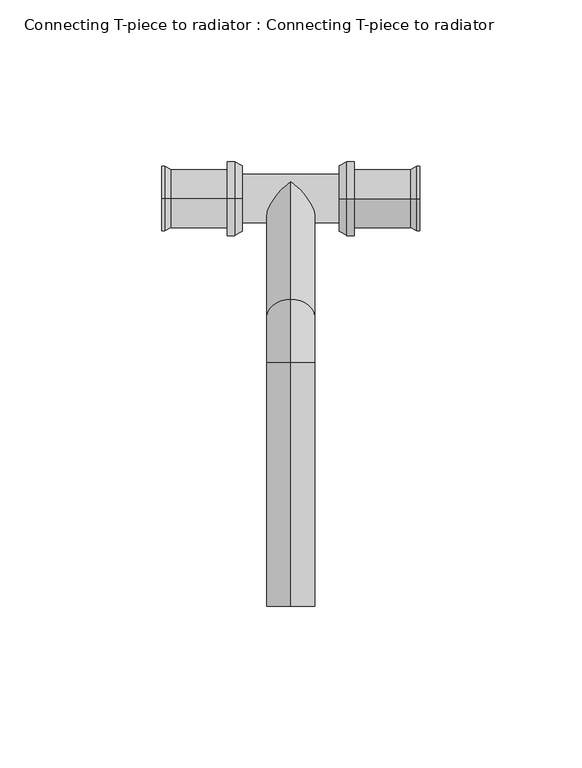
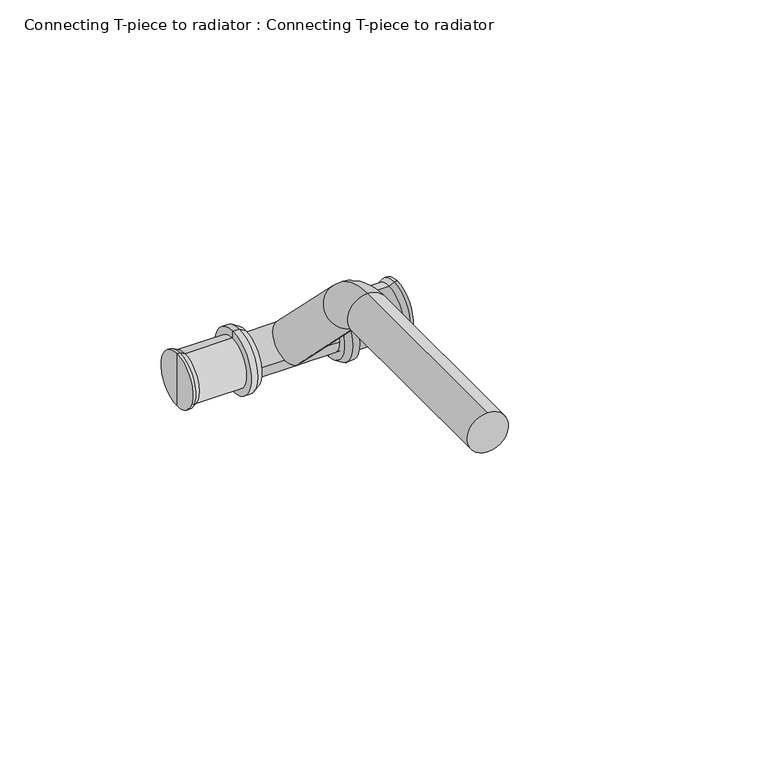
"""IFC4 building model written with IfcOpenShell, lengths in millimetres: pipe fitting geometry, Connecting T-piece to radiator : Connecting T-piece to radiator."""

from ifc_helpers import new_model, si_unit, point, frame, origin, place, context, project, spatial, polyline, circle_curve, ellipse_curve, trimmed, source, transform, mapped, element, save
from ifc_brep_helpers import plane_surface, cylinder_surface, revolved_surface, advanced_brep


def connecting_t_piece_to_radiator_connecting_t_piece_to_64f19e2a(model_context):
    return source(origin(), model_context, "Body", "AdvancedBrep", [
        advanced_brep(
        [(15.0, 0.0, 0.0), (15.0, 0.0, 10.1432269), (15.0, 0.0, -10.1432269), (19.7, 0.0, -11.5), (19.7, 0.0, 11.5), (19.7, 0.0, 0.0), (17.35, 0.0, -11.5), (17.35, 0.0, 11.5)],
        [
            (0, 1),
            (1, 2, circle_curve(frame((15.0, 0.0, 0.0), z_axis=(-1.0, 0.0, 0.0), x_axis=(0.0, 0.0, 1.0)), 10.1432269)),
            (2, 0),
            (2, 1, circle_curve(frame((15.0, 0.0, 0.0), z_axis=(-1.0, 0.0, 0.0), x_axis=(0.0, 0.0, 1.0)), 10.1432269)),
            (3, 4, circle_curve(frame((19.7, 0.0, 0.0), z_axis=(1.0, 0.0, 0.0), x_axis=(0.0, 0.0, 1.0)), 11.5)),
            (4, 5),
            (5, 3),
            (4, 3, circle_curve(frame((19.7, 0.0, 0.0), z_axis=(1.0, 0.0, 0.0), x_axis=(0.0, 0.0, 1.0)), 11.5)),
            (6, 7, circle_curve(frame((17.35, 0.0, 0.0), z_axis=(1.0, 0.0, 0.0), x_axis=(0.0, 0.0, 1.0)), 11.5)),
            (7, 4),
            (3, 6),
            (7, 6, circle_curve(frame((17.35, 0.0, 0.0), z_axis=(1.0, 0.0, 0.0), x_axis=(0.0, 0.0, 1.0)), 11.5)),
            (1, 7),
            (6, 2),
        ],
        [
            plane_surface(frame((15.0, 0.0, 0.0), z_axis=(-1.0, 0.0, 0.0), x_axis=(0.0, 0.0, 1.0))),
            plane_surface(frame((19.7, 0.0, 0.0), z_axis=(1.0, 0.0, 0.0), x_axis=(0.0, 0.0, 1.0))),
            cylinder_surface(frame((16.0, 0.0, 0.0), z_axis=(-1.0, 0.0, 0.0), x_axis=(0.0, 0.0, 1.0)), 11.5),
            revolved_surface(polyline([(17.35, 0.0, 11.5), (15.0, 0.0, 10.1432269)]), (16.0, 0.0, 0.0), (-1.0, 0.0, 0.0)),
        ],
        [
            (0, [[1, 2, 3]]),
            (0, [[-3, 4, -1]]),
            (1, [[5, 6, 7]]),
            (1, [[8, -7, -6]]),
            (2, [[9, 10, -5, 11]]),
            (2, [[12, -11, -8, -10]]),
            (3, [[-2, 13, -9, 14]]),
            (3, [[-4, -14, -12, -13]]),
        ],
    ),
        advanced_brep(
        [(19.7, 0.0, -9.0), (19.7, 0.0, 9.0), (37.0, 0.0, 9.0), (37.0, 0.0, -9.0), (40.0, 0.0, -10.0), (40.0, 0.0, 10.0), (40.0, 0.0, 0.0), (19.7, 0.0, 0.0), (39.0, 0.0, -10.0), (39.0, 0.0, 10.0)],
        [
            (0, 1, circle_curve(frame((19.7, 0.0, 0.0), z_axis=(1.0, 0.0, 0.0), x_axis=(0.0, 0.0, 1.0)), 9.0)),
            (1, 2),
            (2, 3, circle_curve(frame((37.0, 0.0, 0.0), z_axis=(-1.0, 0.0, 0.0), x_axis=(0.0, 0.0, 1.0)), 9.0)),
            (3, 0),
            (1, 0, circle_curve(frame((19.7, 0.0, 0.0), z_axis=(1.0, 0.0, 0.0), x_axis=(0.0, 0.0, 1.0)), 9.0)),
            (3, 2, circle_curve(frame((37.0, 0.0, 0.0), z_axis=(-1.0, 0.0, 0.0), x_axis=(0.0, 0.0, 1.0)), 9.0)),
            (4, 5, circle_curve(frame((40.0, 0.0, 0.0), z_axis=(1.0, 0.0, 0.0), x_axis=(0.0, 0.0, 1.0)), 10.0)),
            (5, 6),
            (6, 4),
            (5, 4, circle_curve(frame((40.0, 0.0, 0.0), z_axis=(1.0, 0.0, 0.0), x_axis=(0.0, 0.0, 1.0)), 10.0)),
            (7, 1),
            (0, 7),
            (8, 9, circle_curve(frame((39.0, 0.0, 0.0), z_axis=(1.0, 0.0, 0.0), x_axis=(0.0, 0.0, 1.0)), 10.0)),
            (9, 5),
            (4, 8),
            (9, 8, circle_curve(frame((39.0, 0.0, 0.0), z_axis=(1.0, 0.0, 0.0), x_axis=(0.0, 0.0, 1.0)), 10.0)),
            (2, 9),
            (8, 3),
        ],
        [
            cylinder_surface(frame((-1895.8038476, 0.0, 0.0), z_axis=(-1.0, 0.0, 0.0), x_axis=(0.0, 0.0, 1.0)), 9.0),
            plane_surface(frame((40.0, 0.0, 0.0), z_axis=(1.0, 0.0, 0.0), x_axis=(0.0, 0.0, 1.0))),
            plane_surface(frame((19.7, 0.0, 0.0), z_axis=(-1.0, 0.0, 0.0), x_axis=(0.0, 0.0, 1.0))),
            cylinder_surface(frame((-1895.8038476, 0.0, 0.0), z_axis=(-1.0, 0.0, 0.0), x_axis=(0.0, 0.0, 1.0)), 10.0),
            revolved_surface(polyline([(39.0, 0.0, 10.0), (37.0, 0.0, 9.0)]), (-1895.8038476, 0.0, 0.0), (-1.0, 0.0, 0.0)),
        ],
        [
            (0, [[1, 2, 3, 4]]),
            (0, [[5, -4, 6, -2]]),
            (1, [[7, 8, 9]]),
            (1, [[10, -9, -8]]),
            (2, [[11, -1, 12]]),
            (2, [[-12, -5, -11]]),
            (3, [[13, 14, -7, 15]]),
            (3, [[16, -15, -10, -14]]),
            (4, [[-3, 17, -13, 18]]),
            (4, [[-6, -18, -16, -17]]),
        ],
    ),
        advanced_brep(
        [(-15.0, 0.0, 0.0), (-15.0, 0.0, 10.1432269), (-15.0, 0.0, -10.1432269), (-19.7, 0.0, -11.5), (-19.7, 0.0, 11.5), (-19.7, 0.0, 0.0), (-17.35, 0.0, -11.5), (-17.35, 0.0, 11.5)],
        [
            (0, 1),
            (1, 2, circle_curve(frame((-15.0, 0.0, 0.0), z_axis=(1.0, 0.0, 0.0), x_axis=(0.0, 0.0, 1.0)), 10.1432269)),
            (2, 0),
            (2, 1, circle_curve(frame((-15.0, 0.0, 0.0), z_axis=(1.0, 0.0, 0.0), x_axis=(0.0, 0.0, 1.0)), 10.1432269)),
            (3, 4, circle_curve(frame((-19.7, 0.0, 0.0), z_axis=(-1.0, 0.0, 0.0), x_axis=(0.0, 0.0, 1.0)), 11.5)),
            (4, 5),
            (5, 3),
            (4, 3, circle_curve(frame((-19.7, 0.0, 0.0), z_axis=(-1.0, 0.0, 0.0), x_axis=(0.0, 0.0, 1.0)), 11.5)),
            (6, 7, circle_curve(frame((-17.35, 0.0, 0.0), z_axis=(-1.0, 0.0, 0.0), x_axis=(0.0, 0.0, 1.0)), 11.5)),
            (7, 4),
            (3, 6),
            (7, 6, circle_curve(frame((-17.35, 0.0, 0.0), z_axis=(-1.0, 0.0, 0.0), x_axis=(0.0, 0.0, 1.0)), 11.5)),
            (1, 7),
            (6, 2),
        ],
        [
            plane_surface(frame((-15.0, 0.0, 0.0), z_axis=(1.0, 0.0, 0.0), x_axis=(0.0, 0.0, 1.0))),
            plane_surface(frame((-19.7, 0.0, 0.0), z_axis=(-1.0, 0.0, 0.0), x_axis=(0.0, 0.0, 1.0))),
            cylinder_surface(frame((-16.0, 0.0, 0.0), z_axis=(1.0, 0.0, 0.0), x_axis=(0.0, 0.0, 1.0)), 11.5),
            revolved_surface(polyline([(-17.35, 0.0, 11.5), (-15.0, 0.0, 10.1432269)]), (-16.0, 0.0, 0.0), (1.0, 0.0, 0.0)),
        ],
        [
            (0, [[1, 2, 3]]),
            (0, [[-3, 4, -1]]),
            (1, [[5, 6, 7]]),
            (1, [[8, -7, -6]]),
            (2, [[9, 10, -5, 11]]),
            (2, [[12, -11, -8, -10]]),
            (3, [[-2, 13, -9, 14]]),
            (3, [[-4, -14, -12, -13]]),
        ],
    ),
        advanced_brep(
        [(-19.7, 0.0, -9.0), (-19.7, 0.0, 9.0), (-37.0, 0.0, 9.0), (-37.0, 0.0, -9.0), (-40.0, 0.0, -10.0), (-40.0, 0.0, 10.0), (-40.0, 0.0, 0.0), (-19.7, 0.0, 0.0), (-39.0, 0.0, -10.0), (-39.0, 0.0, 10.0)],
        [
            (0, 1, circle_curve(frame((-19.7, 0.0, 0.0), z_axis=(-1.0, 0.0, 0.0), x_axis=(0.0, 0.0, 1.0)), 9.0)),
            (1, 2),
            (2, 3, circle_curve(frame((-37.0, 0.0, 0.0), z_axis=(1.0, 0.0, 0.0), x_axis=(0.0, 0.0, 1.0)), 9.0)),
            (3, 0),
            (1, 0, circle_curve(frame((-19.7, 0.0, 0.0), z_axis=(-1.0, 0.0, 0.0), x_axis=(0.0, 0.0, 1.0)), 9.0)),
            (3, 2, circle_curve(frame((-37.0, 0.0, 0.0), z_axis=(1.0, 0.0, 0.0), x_axis=(0.0, 0.0, 1.0)), 9.0)),
            (4, 5, circle_curve(frame((-40.0, 0.0, 0.0), z_axis=(-1.0, 0.0, 0.0), x_axis=(0.0, 0.0, 1.0)), 10.0)),
            (5, 6),
            (6, 4),
            (5, 4, circle_curve(frame((-40.0, 0.0, 0.0), z_axis=(-1.0, 0.0, 0.0), x_axis=(0.0, 0.0, 1.0)), 10.0)),
            (7, 1),
            (0, 7),
            (8, 9, circle_curve(frame((-39.0, 0.0, 0.0), z_axis=(-1.0, 0.0, 0.0), x_axis=(0.0, 0.0, 1.0)), 10.0)),
            (9, 5),
            (4, 8),
            (9, 8, circle_curve(frame((-39.0, 0.0, 0.0), z_axis=(-1.0, 0.0, 0.0), x_axis=(0.0, 0.0, 1.0)), 10.0)),
            (2, 9),
            (8, 3),
        ],
        [
            cylinder_surface(frame((1895.8038476, 0.0, 0.0), z_axis=(1.0, 0.0, 0.0), x_axis=(0.0, 0.0, 1.0)), 9.0),
            plane_surface(frame((-40.0, 0.0, 0.0), z_axis=(-1.0, 0.0, 0.0), x_axis=(0.0, 0.0, 1.0))),
            plane_surface(frame((-19.7, 0.0, 0.0), z_axis=(1.0, 0.0, 0.0), x_axis=(0.0, 0.0, 1.0))),
            cylinder_surface(frame((1895.8038476, 0.0, 0.0), z_axis=(1.0, 0.0, 0.0), x_axis=(0.0, 0.0, 1.0)), 10.0),
            revolved_surface(polyline([(-39.0, 0.0, 10.0), (-37.0, 0.0, 9.0)]), (1895.8038476, 0.0, 0.0), (1.0, 0.0, 0.0)),
        ],
        [
            (0, [[1, 2, 3, 4]]),
            (0, [[5, -4, 6, -2]]),
            (1, [[7, 8, 9]]),
            (1, [[10, -9, -8]]),
            (2, [[11, -1, 12]]),
            (2, [[-12, -5, -11]]),
            (3, [[13, 14, -7, 15]]),
            (3, [[16, -15, -10, -14]]),
            (4, [[-3, 17, -13, 18]]),
            (4, [[-6, -18, -16, -17]]),
        ],
    ),
        advanced_brep(
        [(16.0, 7.5, 0.0), (16.0, -7.5, 0.0), (-16.0, 7.5, 0.0), (-16.0, -7.5, 0.0), (-5.3033009, -7.5, 0.0), (0.0, 5.3033009, 5.3033009), (5.3033009, -7.5, 0.0), (0.0, -5.3033009, -5.3033009), (0.0, -31.2652416, 41.8718434), (0.0, -41.8718434, 31.2652416), (0.0, -50.7106781, 49.9264069), (0.0, -50.7106781, 34.9264069), (0.0, -126.2722899, 49.9264069), (0.0, -126.2722899, 34.9264069)],
        [
            (0, 1, circle_curve(frame((16.0, 0.0, 0.0), z_axis=(1.0, 0.0, 0.0), x_axis=(0.0, -1.0, 0.0)), 7.5)),
            (1, 0, circle_curve(frame((16.0, 0.0, 0.0), z_axis=(1.0, 0.0, 0.0), x_axis=(0.0, -1.0, 0.0)), 7.5)),
            (2, 3, circle_curve(frame((-16.0, 0.0, 0.0), z_axis=(-1.0, 0.0, 0.0), x_axis=(0.0, -1.0, 0.0)), 7.5)),
            (3, 2, circle_curve(frame((-16.0, 0.0, 0.0), z_axis=(-1.0, 0.0, 0.0), x_axis=(0.0, -1.0, 0.0)), 7.5)),
            (0, 2),
            (3, 4),
            (4, 5, ellipse_curve(frame((0.0, 0.0, 0.0), z_axis=(-0.7071067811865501, 0.4999999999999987, -0.49999999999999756), x_axis=(0.7071067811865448, 0.5000000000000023, -0.5000000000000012)), 10.6066017, 7.5)),
            (5, 6, ellipse_curve(frame((0.0, 0.0, 0.0), z_axis=(0.7071067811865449, 0.5000000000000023, -0.5000000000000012), x_axis=(0.7071067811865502, -0.49999999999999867, 0.49999999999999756)), 10.6066017, 7.5)),
            (6, 1),
            (6, 7, ellipse_curve(frame((0.0, 0.0, 0.0), z_axis=(0.7071067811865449, 0.5000000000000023, -0.5000000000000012), x_axis=(0.7071067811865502, -0.49999999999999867, 0.49999999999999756)), 10.6066017, 7.5)),
            (7, 4, ellipse_curve(frame((0.0, 0.0, 0.0), z_axis=(-0.7071067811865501, 0.4999999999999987, -0.49999999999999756), x_axis=(0.7071067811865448, 0.5000000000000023, -0.5000000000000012)), 10.6066017, 7.5)),
            (5, 8),
            (8, 9, circle_curve(frame((0.0, -36.5685425, 36.5685425), z_axis=(0.0, 0.7071067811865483, -0.7071067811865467), x_axis=(0.0, -0.7071067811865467, -0.7071067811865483)), 7.5)),
            (9, 7),
            (9, 8, circle_curve(frame((0.0, -36.5685425, 36.5685425), z_axis=(0.0, 0.7071067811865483, -0.7071067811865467), x_axis=(0.0, -0.7071067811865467, -0.7071067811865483)), 7.5)),
            (8, 10, circle_curve(frame((0.0, -50.7106781, 22.4264069), z_axis=(1.0, 0.0, 0.0), x_axis=(0.0, 0.7071067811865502, 0.7071067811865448)), 27.5)),
            (10, 11, circle_curve(frame((0.0, -50.7106781, 42.4264069), z_axis=(0.0, 1.0, 0.0), x_axis=(0.0, 0.0, -1.0)), 7.5)),
            (11, 9, circle_curve(frame((0.0, -50.7106781, 22.4264069), z_axis=(-1.0, 0.0, 0.0), x_axis=(0.0, 0.7071067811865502, 0.7071067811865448)), 12.5)),
            (11, 10, circle_curve(frame((0.0, -50.7106781, 42.4264069), z_axis=(0.0, 1.0, 0.0), x_axis=(0.0, 0.0, -1.0)), 7.5)),
            (12, 13, circle_curve(frame((0.0, -126.2722899, 42.4264069), z_axis=(0.0, -1.0, 0.0), x_axis=(0.0, 0.0, -1.0)), 7.5)),
            (13, 12, circle_curve(frame((0.0, -126.2722899, 42.4264069), z_axis=(0.0, -1.0, 0.0), x_axis=(0.0, 0.0, -1.0)), 7.5)),
            (10, 12),
            (13, 11),
        ],
        [
            plane_surface(frame((16.0, 0.0, 0.0), z_axis=(1.0, 0.0, 0.0), x_axis=(0.0, 0.0, 1.0))),
            plane_surface(frame((-16.0, 0.0, 0.0), z_axis=(-1.0, 0.0, 0.0), x_axis=(0.0, 0.0, 1.0))),
            cylinder_surface(frame((16.0, 0.0, 0.0), z_axis=(1.0, 0.0, 0.0), x_axis=(0.0, -1.0, 0.0)), 7.5),
            cylinder_surface(frame((0.0, 0.0, 0.0), z_axis=(0.0, 0.7071067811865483, -0.7071067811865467), x_axis=(0.0, -0.7071067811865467, -0.7071067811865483)), 7.5),
            revolved_surface(trimmed(ellipse_curve(frame((0.0, -36.5685425, 36.5685425), z_axis=(0.0, 0.7071067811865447, -0.7071067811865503), x_axis=(0.0, -0.7071067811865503, -0.7071067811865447)), 7.5, 7.5), [point((0.0, -31.2652416, 41.8718434))], [point((0.0, -41.8718434, 31.2652416))], True, "CARTESIAN"), (0.0, -50.7106781, 22.4264069), (1.0, 0.0, 0.0)),
            revolved_surface(trimmed(ellipse_curve(frame((0.0, -36.5685425, 36.5685425), z_axis=(0.0, 0.7071067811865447, -0.7071067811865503), x_axis=(0.0, -0.7071067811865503, -0.7071067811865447)), 7.5, 7.5), [point((0.0, -41.8718434, 31.2652416))], [point((0.0, -31.2652416, 41.8718434))], True, "CARTESIAN"), (0.0, -50.7106781, 22.4264069), (1.0, 0.0, 0.0)),
            plane_surface(frame((0.0, -126.2722899, 42.4264069), z_axis=(0.0, -1.0, 0.0), x_axis=(1.0, 0.0, 0.0))),
            cylinder_surface(frame((0.0, -50.7106781, 42.4264069), z_axis=(0.0, 1.0, 0.0), x_axis=(0.0, 0.0, -1.0)), 7.5),
        ],
        [
            (0, [[1, 2]]),
            (1, [[3, 4]]),
            (2, [[-1, 5, -4, 6, 7, 8, 9]]),
            (2, [[-2, -9, 10, 11, -6, -3, -5]]),
            (3, [[12, 13, 14, -10, -8]]),
            (3, [[-12, -7, -11, -14, 15]]),
            (4, [[-13, 16, 17, 18]]),
            (5, [[-15, -18, 19, -16]]),
            (6, [[20, 21]]),
            (7, [[-17, 22, -21, 23]]),
            (7, [[-19, -23, -20, -22]]),
        ],
    ),
    ])


if __name__ == "__main__":
    model = new_model("IFC4")
    model_context = context("Model", 3, world=origin())
    ifc_project = project(units=[si_unit("LENGTHUNIT", "METRE", prefix="MILLI")], contexts=[model_context])
    site = spatial("IfcSite", under=ifc_project)
    building = spatial("IfcBuilding", under=site)
    placement = place(None, origin())
    connecting_t_piece_to_radiator_connecting_t_piece_to_shape = connecting_t_piece_to_radiator_connecting_t_piece_to_64f19e2a(model_context)
    element("IfcPipeFitting", 1, ObjectType="Connecting T-piece to radiator : Connecting T-piece to radiator", at=placement, inside=building, context=model_context, shape_type="MappedRepresentation", body=[
        mapped(connecting_t_piece_to_radiator_connecting_t_piece_to_shape, transform((0.0, 0.0, 0.0), x_axis=(1.0, 0.0, 0.0), y_axis=(0.0, 1.0, 0.0), z_axis=(0.0, 0.0, 1.0))),
    ])
    save(model, "model.ifc")
